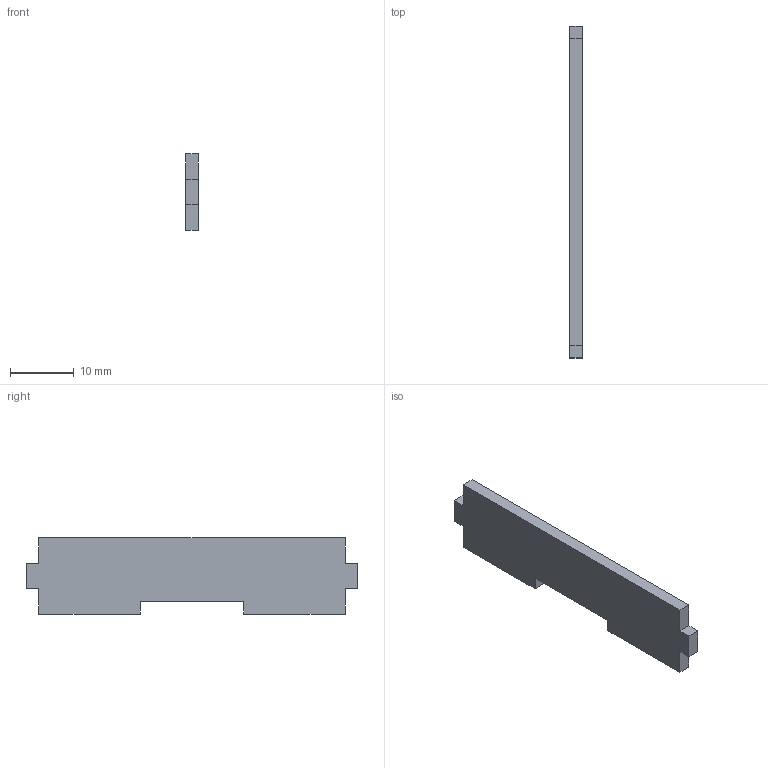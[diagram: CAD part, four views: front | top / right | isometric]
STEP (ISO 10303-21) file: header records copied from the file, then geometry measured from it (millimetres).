
FILE_DESCRIPTION(('FreeCAD Model'),'2;1');
FILE_NAME('Open CASCADE Shape Model','2025-03-08T17:24:57',(''),(''), 'Open CASCADE STEP processor 7.8','FreeCAD','Unknown');
FILE_SCHEMA(('AUTOMOTIVE_DESIGN { 1 0 10303 214 1 1 1 1 }'));
Length unit declared in the file: millimetre
Products named in the file (1): 右
Bounding box: 2 x 52.2 x 12 mm (x, y, z)
Volume: 1124 mm3; surface area: 1388.8 mm2
Topology: 1 solids, 1 shells, 18 faces, 48 edges, 32 vertices
Faces by surface type: plane 18
Entity records: 574 total; most frequent: CARTESIAN_POINT 99, ORIENTED_EDGE 96, DIRECTION 86, EDGE_CURVE 48, LINE 48, VECTOR 48, VERTEX_POINT 32, AXIS2_PLACEMENT_3D 19
